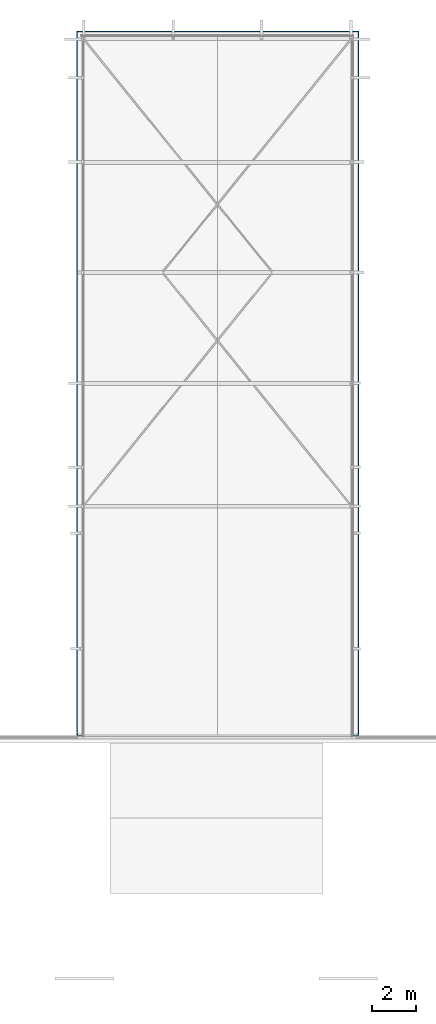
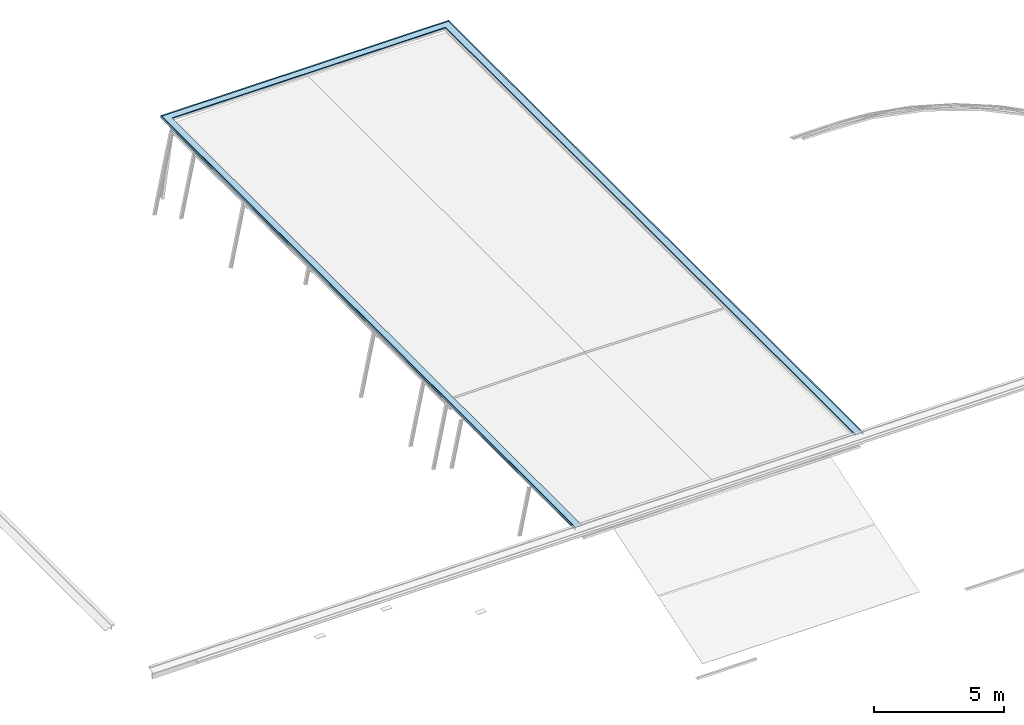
# One storey, part 4 of 5: 1 roof.
"""IFC2X3 building model written with IfcOpenShell, lengths in millimetres."""

from ifc_helpers import new_model, entity, si_unit, converted_unit, derived_unit, direction, frame, origin, place, context, subcontext, project, spatial, faceted_brep, material, element, save


model = new_model("IFC2X3")

# Units and contexts
model_context = context("Model", 3, precision=0.01, world=origin(), true_north=direction((6.12303176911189e-17, 1.0)))
body_context = subcontext(model_context, "Body", "Model", "MODEL_VIEW")
ifc_project = project(units=[si_unit("LENGTHUNIT", "METRE", prefix="MILLI"), si_unit("AREAUNIT", "SQUARE_METRE"), si_unit("VOLUMEUNIT", "CUBIC_METRE"), converted_unit("PLANEANGLEUNIT", "DEGREE", entity("IfcRatioMeasure", 0.0174532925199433), si_unit("PLANEANGLEUNIT", "RADIAN"), dimensions=[0, 0, 0, 0, 0, 0, 0]), si_unit("MASSUNIT", "GRAM", prefix="KILO"), derived_unit("MASSDENSITYUNIT", [(si_unit("MASSUNIT", "GRAM", prefix="KILO"), 1), (si_unit("LENGTHUNIT", "METRE"), -3)]), derived_unit("MOMENTOFINERTIAUNIT", [(si_unit("LENGTHUNIT", "METRE"), 4)]), si_unit("TIMEUNIT", "SECOND"), si_unit("FREQUENCYUNIT", "HERTZ"), si_unit("THERMODYNAMICTEMPERATUREUNIT", "DEGREE_CELSIUS"), derived_unit("THERMALTRANSMITTANCEUNIT", [(si_unit("MASSUNIT", "GRAM", prefix="KILO"), 1), (si_unit("THERMODYNAMICTEMPERATUREUNIT", "KELVIN"), -1), (si_unit("TIMEUNIT", "SECOND"), -3)]), derived_unit("VOLUMETRICFLOWRATEUNIT", [(si_unit("LENGTHUNIT", "METRE"), 3), (si_unit("TIMEUNIT", "SECOND"), -1)]), si_unit("ELECTRICCURRENTUNIT", "AMPERE"), si_unit("ELECTRICVOLTAGEUNIT", "VOLT"), si_unit("POWERUNIT", "WATT"), si_unit("FORCEUNIT", "NEWTON", prefix="KILO"), si_unit("ILLUMINANCEUNIT", "LUX"), si_unit("LUMINOUSFLUXUNIT", "LUMEN"), si_unit("LUMINOUSINTENSITYUNIT", "CANDELA"), derived_unit("USERDEFINED", [(si_unit("MASSUNIT", "GRAM", prefix="KILO"), -1), (si_unit("LENGTHUNIT", "METRE"), -2), (si_unit("TIMEUNIT", "SECOND"), 3), (si_unit("LUMINOUSFLUXUNIT", "LUMEN"), 1)]), derived_unit("LINEARVELOCITYUNIT", [(si_unit("LENGTHUNIT", "METRE"), 1), (si_unit("TIMEUNIT", "SECOND"), -1)]), si_unit("PRESSUREUNIT", "PASCAL"), derived_unit("USERDEFINED", [(si_unit("LENGTHUNIT", "METRE"), -2), (si_unit("MASSUNIT", "GRAM", prefix="KILO"), 1), (si_unit("TIMEUNIT", "SECOND"), -2)]), derived_unit("LINEARFORCEUNIT", [(si_unit("MASSUNIT", "GRAM", prefix="KILO"), 1), (si_unit("LENGTHUNIT", "METRE"), 1), (si_unit("TIMEUNIT", "SECOND"), -2), (si_unit("LENGTHUNIT", "METRE"), -1)]), derived_unit("PLANARFORCEUNIT", [(si_unit("MASSUNIT", "GRAM", prefix="KILO"), 1), (si_unit("LENGTHUNIT", "METRE"), 1), (si_unit("TIMEUNIT", "SECOND"), -2), (si_unit("LENGTHUNIT", "METRE"), -2)])], contexts=[model_context])

# Site, building, storey
site_placement = place(None, origin())
site = spatial("IfcSite", under=ifc_project, at=site_placement, Name="Default", CompositionType="ELEMENT")
building_placement = place(site_placement, origin())
building = spatial("IfcBuilding", under=site, at=building_placement, Name="-", CompositionType="ELEMENT")
storey_placement = place(building_placement, frame((0.0, 0.0, 6070.0)))
storey = spatial("IfcBuildingStorey", under=building, at=storey_placement, Name="02 tweede verdieping", CompositionType="ELEMENT", Elevation=6070.00000000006)

# Roof
ifc_material = material(Name="h7_zink zwart")
roof_placement = place(storey_placement, frame((28410.6140091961, 10470.4951556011, 370.617991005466)))
element("IfcRoof", 1, at=roof_placement, inside=storey, material=ifc_material, Name="Dakrand gymzaal:Dakrand gymzaal", ObjectType="Dakrand gymzaal:Dakrand gymzaal", ShapeType="NOTDEFINED", context=body_context, shape_type="Brep", body=[
    faceted_brep([(12773.1190652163, 0.0, 39.6500400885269), (12773.1190652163, 0.0, 146.013799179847), (12737.2192779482, 0.0, 121.799086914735), (12452.4408460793, 0.0, 111.854404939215), (12444.5737053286, 0.0, 74.8424176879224), (12445.5518529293, 0.0, 74.6345059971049), (12453.2605241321, 0.0, 110.900952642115), (12737.5697253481, 0.0, 120.829248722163), (12772.1190652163, 0.0, 144.133072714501), (12772.1190652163, 0.0, 41.2197256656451), (12740.3866506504, 0.0, 56.0167935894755), (12751.8852470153, 0.0, 0.0), (12752.8648222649, 0.0, 0.201077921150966), (12741.7660248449, 0.0, 54.2702029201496), (12773.1190652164, 31850.607662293, 39.6500400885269), (12773.1190652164, 31850.607662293, 146.013799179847), (12737.2192779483, 31814.707875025, 121.799086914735), (12452.4408460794, 31529.9294431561, 111.854404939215), (12444.5737053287, 31522.0623024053, 74.8424176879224), (12445.5518529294, 31523.0404500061, 74.6345059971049), (12453.2605241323, 31530.7491212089, 110.900952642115), (12737.5697253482, 31815.0583224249, 120.829248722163), (12772.1190652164, 31849.607662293, 144.133072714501), (12772.1190652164, 31849.607662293, 41.2197256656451), (12740.3866506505, 31817.8752477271, 56.0167935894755), (12751.8852470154, 31829.3738440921, 0.0), (12752.864822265, 31830.3534193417, 0.201077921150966), (12741.766024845, 31819.2546219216, 54.2702029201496), (0.0, 31850.607662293, 39.6500400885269), (0.0, 31850.607662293, 146.013799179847), (35.8997872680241, 31814.707875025, 121.799086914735), (320.678219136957, 31529.9294431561, 111.854404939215), (328.545359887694, 31522.0623024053, 74.8424176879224), (327.567212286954, 31523.0404500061, 74.6345059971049), (319.858541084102, 31530.7491212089, 110.900952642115), (35.5493398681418, 31815.0583224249, 120.829248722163), (1.0, 31849.607662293, 144.133072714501), (1.0, 31849.607662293, 41.2197256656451), (32.7324145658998, 31817.8752477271, 56.0167935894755), (21.233818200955, 31829.3738440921, 0.0), (20.254242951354, 31830.3534193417, 0.201077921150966), (31.3530403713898, 31819.2546219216, 54.2702029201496), (0.0, 0.0, 39.6500400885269), (31.3530403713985, 0.0, 54.2702029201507), (20.2542429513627, 0.0, 0.201077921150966), (21.233818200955, 0.0, 0.0), (32.7324145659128, 0.0, 56.0167935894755), (1.0, 0.0, 41.2197256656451), (1.0, 0.0, 144.133072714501), (35.5493398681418, 0.0, 120.829248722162), (319.858541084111, 0.0, 110.900952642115), (327.567212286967, 0.0, 74.6345059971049), (328.545359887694, 0.0, 74.8424176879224), (320.678219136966, 0.0, 111.854404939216), (35.8997872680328, 0.0, 121.799086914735), (0.0, 0.0, 146.013799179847)], [[[0, 1, 2, 3, 4, 5, 6, 7, 8, 9, 10, 11, 12, 13]], [[1, 0, 14, 15]], [[2, 1, 15, 16]], [[3, 2, 16, 17]], [[4, 3, 17, 18]], [[5, 4, 18, 19]], [[6, 5, 19, 20]], [[7, 6, 20, 21]], [[8, 7, 21, 22]], [[9, 8, 22, 23]], [[10, 9, 23, 24]], [[11, 10, 24, 25]], [[12, 11, 25, 26]], [[13, 12, 26, 27]], [[0, 13, 27, 14]], [[15, 14, 28, 29]], [[16, 15, 29, 30]], [[17, 16, 30, 31]], [[18, 17, 31, 32]], [[19, 18, 32, 33]], [[20, 19, 33, 34]], [[21, 20, 34, 35]], [[22, 21, 35, 36]], [[23, 22, 36, 37]], [[24, 23, 37, 38]], [[25, 24, 38, 39]], [[26, 25, 39, 40]], [[27, 26, 40, 41]], [[14, 27, 41, 28]], [[42, 43, 44, 45, 46, 47, 48, 49, 50, 51, 52, 53, 54, 55]], [[29, 28, 42, 55]], [[30, 29, 55, 54]], [[31, 30, 54, 53]], [[32, 31, 53, 52]], [[33, 32, 52, 51]], [[34, 33, 51, 50]], [[35, 34, 50, 49]], [[36, 35, 49, 48]], [[37, 36, 48, 47]], [[38, 37, 47, 46]], [[39, 38, 46, 45]], [[40, 39, 45, 44]], [[41, 40, 44, 43]], [[28, 41, 43, 42]]]),
])

save(model, "model.ifc")
